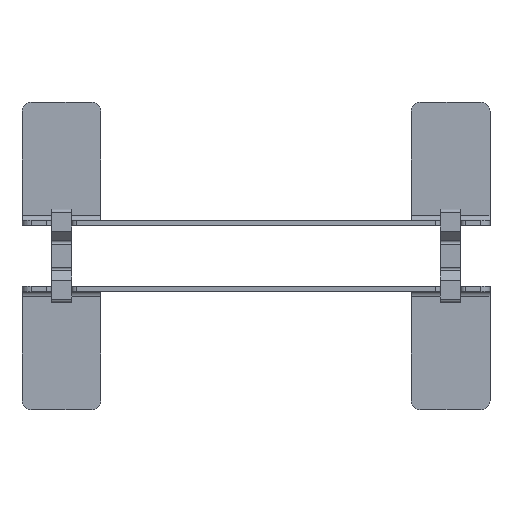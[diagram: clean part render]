
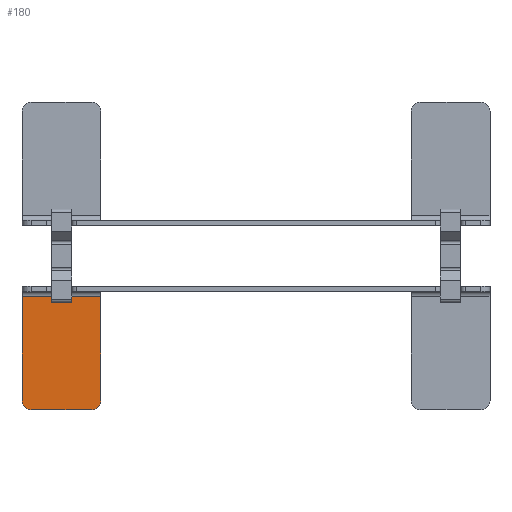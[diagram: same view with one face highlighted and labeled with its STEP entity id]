
A CAD part, top view. The second image highlights one B-rep face of the part: STEP entity #180.
In plain terms, the highlighted planar face has unit normal (0, 0, 1).
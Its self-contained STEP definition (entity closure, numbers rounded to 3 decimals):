
#72=CARTESIAN_POINT('',(395.671,-97.523,-5.));
#73=VERTEX_POINT('',#72);
#74=CARTESIAN_POINT('',(357.671,-97.523,-5.));
#75=VERTEX_POINT('',#74);
#76=CARTESIAN_POINT('',(395.671,-97.523,-5.));
#77=DIRECTION('',(-1.,0.,0.));
#78=VECTOR('',#77,38.);
#79=LINE('',#76,#78);
#80=EDGE_CURVE('',#73,#75,#79,.T.);
#121=CARTESIAN_POINT('',(401.671,-91.523,-5.));
#122=VERTEX_POINT('',#121);
#129=CARTESIAN_POINT('',(395.671,-91.523,-5.));
#130=DIRECTION('',(0.,0.,1.));
#131=DIRECTION('',(1.,0.,-0.));
#132=AXIS2_PLACEMENT_3D('',#129,#130,#131);
#133=CIRCLE('',#132,6.);
#134=EDGE_CURVE('',#73,#122,#133,.T.);
#140=CARTESIAN_POINT('',(351.671,-19.343,-5.));
#141=DIRECTION('',(0.,0.,1.));
#142=DIRECTION('',(1.,0.,0.));
#143=AXIS2_PLACEMENT_3D('',#140,#141,#142);
#144=PLANE('',#143);
#145=CARTESIAN_POINT('',(351.671,-91.523,-5.));
#146=VERTEX_POINT('',#145);
#147=CARTESIAN_POINT('',(351.671,-25.703,-5.));
#148=VERTEX_POINT('',#147);
#149=CARTESIAN_POINT('',(351.671,-91.523,-5.));
#150=DIRECTION('',(0.,1.,0.));
#151=VECTOR('',#150,65.82);
#152=LINE('',#149,#151);
#153=EDGE_CURVE('',#146,#148,#152,.T.);
#154=ORIENTED_EDGE('',*,*,#153,.F.);
#155=CARTESIAN_POINT('',(357.671,-91.523,-5.));
#156=DIRECTION('',(0.,0.,1.));
#157=DIRECTION('',(1.,0.,-0.));
#158=AXIS2_PLACEMENT_3D('',#155,#156,#157);
#159=CIRCLE('',#158,6.);
#160=EDGE_CURVE('',#146,#75,#159,.T.);
#161=ORIENTED_EDGE('',*,*,#160,.T.);
#162=ORIENTED_EDGE('',*,*,#80,.F.);
#163=ORIENTED_EDGE('',*,*,#134,.T.);
#164=CARTESIAN_POINT('',(401.671,-25.703,-5.));
#165=VERTEX_POINT('',#164);
#166=CARTESIAN_POINT('',(401.671,-25.703,-5.));
#167=DIRECTION('',(0.,-1.,0.));
#168=VECTOR('',#167,65.82);
#169=LINE('',#166,#168);
#170=EDGE_CURVE('',#165,#122,#169,.T.);
#171=ORIENTED_EDGE('',*,*,#170,.F.);
#172=CARTESIAN_POINT('',(401.671,-25.703,-5.));
#173=DIRECTION('',(-1.,-0.,0.));
#174=VECTOR('',#173,50.);
#175=LINE('',#172,#174);
#176=EDGE_CURVE('',#165,#148,#175,.T.);
#177=ORIENTED_EDGE('',*,*,#176,.T.);
#178=EDGE_LOOP('',(#154,#161,#162,#163,#171,#177));
#179=FACE_BOUND('',#178,.T.);
#180=ADVANCED_FACE('',(#179),#144,.T.);
